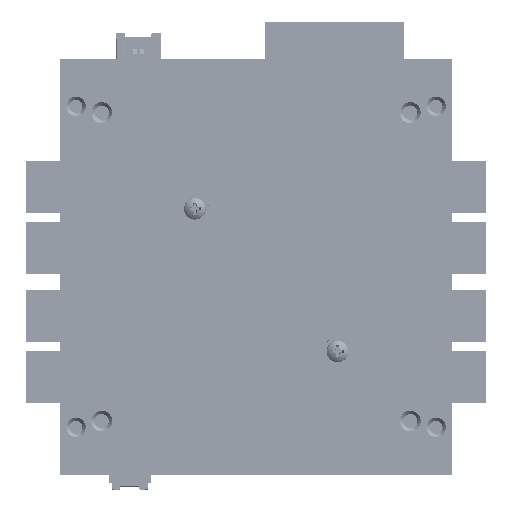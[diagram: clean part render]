
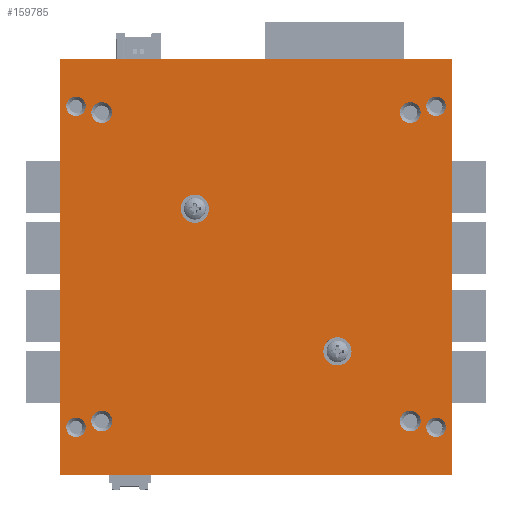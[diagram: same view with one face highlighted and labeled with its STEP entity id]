
A CAD part, top view. The second image highlights one B-rep face of the part: STEP entity #159785.
In plain terms, the highlighted planar face has unit normal (0, 0, 1).
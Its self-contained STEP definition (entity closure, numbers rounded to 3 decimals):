
#157979=DIRECTION('',(0.,-1.,0.));
#157980=VECTOR('',#157979,95.885);
#157981=CARTESIAN_POINT('',(90.17,95.885,14.941));
#157982=LINE('',#157981,#157980);
#157991=DIRECTION('',(-1.,0.,0.));
#157992=VECTOR('',#157991,90.17);
#157993=CARTESIAN_POINT('',(90.17,0.,14.941));
#157994=LINE('',#157993,#157992);
#157999=DIRECTION('',(0.,1.,0.));
#158000=VECTOR('',#157999,95.885);
#158001=CARTESIAN_POINT('',(0.,0.,14.941));
#158002=LINE('',#158001,#158000);
#158003=DIRECTION('',(1.,0.,0.));
#158004=VECTOR('',#158003,90.17);
#158005=CARTESIAN_POINT('',(0.,95.885,14.941));
#158006=LINE('',#158005,#158004);
#158011=CARTESIAN_POINT('',(86.59,10.95,14.941));
#158012=DIRECTION('',(0.,0.,-1.));
#158013=DIRECTION('',(1.,0.,0.));
#158014=AXIS2_PLACEMENT_3D('',#158011,#158012,#158013);
#158016=CARTESIAN_POINT('',(86.59,10.95,14.941));
#158017=DIRECTION('',(0.,0.,-1.));
#158018=DIRECTION('',(-1.,0.,0.));
#158019=AXIS2_PLACEMENT_3D('',#158016,#158017,#158018);
#158021=CARTESIAN_POINT('',(80.645,12.38,14.941));
#158022=DIRECTION('',(0.,0.,-1.));
#158023=DIRECTION('',(1.,0.,0.));
#158024=AXIS2_PLACEMENT_3D('',#158021,#158022,#158023);
#158026=CARTESIAN_POINT('',(80.645,12.38,14.941));
#158027=DIRECTION('',(0.,0.,-1.));
#158028=DIRECTION('',(-1.,0.,0.));
#158029=AXIS2_PLACEMENT_3D('',#158026,#158027,#158028);
#158031=CARTESIAN_POINT('',(86.59,84.95,14.941));
#158032=DIRECTION('',(0.,0.,-1.));
#158033=DIRECTION('',(1.,0.,0.));
#158034=AXIS2_PLACEMENT_3D('',#158031,#158032,#158033);
#158036=CARTESIAN_POINT('',(86.59,84.95,14.941));
#158037=DIRECTION('',(0.,0.,-1.));
#158038=DIRECTION('',(-1.,0.,0.));
#158039=AXIS2_PLACEMENT_3D('',#158036,#158037,#158038);
#158041=CARTESIAN_POINT('',(80.645,83.5,14.941));
#158042=DIRECTION('',(0.,0.,-1.));
#158043=DIRECTION('',(1.,0.,0.));
#158044=AXIS2_PLACEMENT_3D('',#158041,#158042,#158043);
#158046=CARTESIAN_POINT('',(80.645,83.5,14.941));
#158047=DIRECTION('',(0.,0.,-1.));
#158048=DIRECTION('',(-1.,0.,0.));
#158049=AXIS2_PLACEMENT_3D('',#158046,#158047,#158048);
#158051=CARTESIAN_POINT('',(9.525,83.5,14.941));
#158052=DIRECTION('',(0.,0.,-1.));
#158053=DIRECTION('',(1.,0.,0.));
#158054=AXIS2_PLACEMENT_3D('',#158051,#158052,#158053);
#158056=CARTESIAN_POINT('',(9.525,83.5,14.941));
#158057=DIRECTION('',(0.,0.,-1.));
#158058=DIRECTION('',(-1.,0.,0.));
#158059=AXIS2_PLACEMENT_3D('',#158056,#158057,#158058);
#158061=CARTESIAN_POINT('',(3.59,84.95,14.941));
#158062=DIRECTION('',(0.,0.,-1.));
#158063=DIRECTION('',(1.,0.,0.));
#158064=AXIS2_PLACEMENT_3D('',#158061,#158062,#158063);
#158066=CARTESIAN_POINT('',(3.59,84.95,14.941));
#158067=DIRECTION('',(0.,0.,-1.));
#158068=DIRECTION('',(-1.,0.,0.));
#158069=AXIS2_PLACEMENT_3D('',#158066,#158067,#158068);
#158071=CARTESIAN_POINT('',(9.525,12.38,14.941));
#158072=DIRECTION('',(0.,0.,-1.));
#158073=DIRECTION('',(1.,0.,0.));
#158074=AXIS2_PLACEMENT_3D('',#158071,#158072,#158073);
#158076=CARTESIAN_POINT('',(9.525,12.38,14.941));
#158077=DIRECTION('',(0.,0.,-1.));
#158078=DIRECTION('',(-1.,0.,0.));
#158079=AXIS2_PLACEMENT_3D('',#158076,#158077,#158078);
#158081=CARTESIAN_POINT('',(3.59,10.95,14.941));
#158082=DIRECTION('',(0.,0.,-1.));
#158083=DIRECTION('',(1.,0.,0.));
#158084=AXIS2_PLACEMENT_3D('',#158081,#158082,#158083);
#158086=CARTESIAN_POINT('',(3.59,10.95,14.941));
#158087=DIRECTION('',(0.,0.,-1.));
#158088=DIRECTION('',(-1.,0.,0.));
#158089=AXIS2_PLACEMENT_3D('',#158086,#158087,#158088);
#158091=CARTESIAN_POINT('',(63.865,28.461,14.941));
#158092=DIRECTION('',(0.,0.,-1.));
#158093=DIRECTION('',(1.,0.,0.));
#158094=AXIS2_PLACEMENT_3D('',#158091,#158092,#158093);
#158096=CARTESIAN_POINT('',(63.865,28.461,14.941));
#158097=DIRECTION('',(0.,0.,-1.));
#158098=DIRECTION('',(-1.,0.,0.));
#158099=AXIS2_PLACEMENT_3D('',#158096,#158097,#158098);
#158101=CARTESIAN_POINT('',(30.985,61.341,14.941));
#158102=DIRECTION('',(0.,0.,-1.));
#158103=DIRECTION('',(1.,0.,0.));
#158104=AXIS2_PLACEMENT_3D('',#158101,#158102,#158103);
#158106=CARTESIAN_POINT('',(30.985,61.341,14.941));
#158107=DIRECTION('',(0.,0.,-1.));
#158108=DIRECTION('',(-1.,0.,0.));
#158109=AXIS2_PLACEMENT_3D('',#158106,#158107,#158108);
#159075=CARTESIAN_POINT('',(83.045,12.38,14.941));
#159077=VERTEX_POINT('',#159075);
#159079=CARTESIAN_POINT('',(78.245,12.38,14.941));
#159080=VERTEX_POINT('',#159079);
#159083=CARTESIAN_POINT('',(88.84,10.95,14.941));
#159085=VERTEX_POINT('',#159083);
#159087=CARTESIAN_POINT('',(84.34,10.95,14.941));
#159088=VERTEX_POINT('',#159087);
#159103=CARTESIAN_POINT('',(88.84,84.95,14.941));
#159104=CARTESIAN_POINT('',(84.34,84.95,14.941));
#159105=VERTEX_POINT('',#159103);
#159106=VERTEX_POINT('',#159104);
#159107=CARTESIAN_POINT('',(83.045,83.5,14.941));
#159108=CARTESIAN_POINT('',(78.245,83.5,14.941));
#159109=VERTEX_POINT('',#159107);
#159110=VERTEX_POINT('',#159108);
#159427=CARTESIAN_POINT('',(0.,0.,14.941));
#159428=VERTEX_POINT('',#159427);
#159429=CARTESIAN_POINT('',(90.17,0.,14.941));
#159430=VERTEX_POINT('',#159429);
#159431=CARTESIAN_POINT('',(90.17,95.885,14.941));
#159432=VERTEX_POINT('',#159431);
#159433=CARTESIAN_POINT('',(0.,95.885,14.941));
#159434=VERTEX_POINT('',#159433);
#159435=CARTESIAN_POINT('',(27.735,61.341,14.941));
#159436=CARTESIAN_POINT('',(34.235,61.341,14.941));
#159437=VERTEX_POINT('',#159435);
#159438=VERTEX_POINT('',#159436);
#159439=CARTESIAN_POINT('',(60.615,28.461,14.941));
#159440=CARTESIAN_POINT('',(67.115,28.461,14.941));
#159441=VERTEX_POINT('',#159439);
#159442=VERTEX_POINT('',#159440);
#159443=CARTESIAN_POINT('',(1.34,10.95,14.941));
#159444=CARTESIAN_POINT('',(5.84,10.95,14.941));
#159445=VERTEX_POINT('',#159443);
#159446=VERTEX_POINT('',#159444);
#159447=CARTESIAN_POINT('',(7.125,12.38,14.941));
#159448=CARTESIAN_POINT('',(11.925,12.38,14.941));
#159449=VERTEX_POINT('',#159447);
#159450=VERTEX_POINT('',#159448);
#159451=CARTESIAN_POINT('',(1.34,84.95,14.941));
#159452=CARTESIAN_POINT('',(5.84,84.95,14.941));
#159453=VERTEX_POINT('',#159451);
#159454=VERTEX_POINT('',#159452);
#159455=CARTESIAN_POINT('',(7.125,83.5,14.941));
#159456=CARTESIAN_POINT('',(11.925,83.5,14.941));
#159457=VERTEX_POINT('',#159455);
#159458=VERTEX_POINT('',#159456);
#159714=CARTESIAN_POINT('',(0.,0.,14.941));
#159715=DIRECTION('',(0.,0.,1.));
#159716=DIRECTION('',(1.,0.,0.));
#159717=AXIS2_PLACEMENT_3D('',#159714,#159715,#159716);
#159718=PLANE('',#159717);
#159719=ORIENTED_EDGE('',*,*,#159707,.T.);
#159720=ORIENTED_EDGE('',*,*,#159665,.T.);
#159721=ORIENTED_EDGE('',*,*,#159680,.T.);
#159722=ORIENTED_EDGE('',*,*,#159694,.T.);
#159723=EDGE_LOOP('',(#159719,#159720,#159721,#159722));
#159724=FACE_OUTER_BOUND('',#159723,.F.);
#159726=ORIENTED_EDGE('',*,*,#159725,.F.);
#159728=ORIENTED_EDGE('',*,*,#159727,.F.);
#159729=EDGE_LOOP('',(#159726,#159728));
#159730=FACE_BOUND('',#159729,.F.);
#159732=ORIENTED_EDGE('',*,*,#159731,.F.);
#159734=ORIENTED_EDGE('',*,*,#159733,.F.);
#159735=EDGE_LOOP('',(#159732,#159734));
#159736=FACE_BOUND('',#159735,.F.);
#159738=ORIENTED_EDGE('',*,*,#159737,.F.);
#159740=ORIENTED_EDGE('',*,*,#159739,.F.);
#159741=EDGE_LOOP('',(#159738,#159740));
#159742=FACE_BOUND('',#159741,.F.);
#159744=ORIENTED_EDGE('',*,*,#159743,.F.);
#159746=ORIENTED_EDGE('',*,*,#159745,.F.);
#159747=EDGE_LOOP('',(#159744,#159746));
#159748=FACE_BOUND('',#159747,.F.);
#159750=ORIENTED_EDGE('',*,*,#159749,.F.);
#159752=ORIENTED_EDGE('',*,*,#159751,.F.);
#159753=EDGE_LOOP('',(#159750,#159752));
#159754=FACE_BOUND('',#159753,.F.);
#159756=ORIENTED_EDGE('',*,*,#159755,.F.);
#159758=ORIENTED_EDGE('',*,*,#159757,.F.);
#159759=EDGE_LOOP('',(#159756,#159758));
#159760=FACE_BOUND('',#159759,.F.);
#159762=ORIENTED_EDGE('',*,*,#159761,.F.);
#159764=ORIENTED_EDGE('',*,*,#159763,.F.);
#159765=EDGE_LOOP('',(#159762,#159764));
#159766=FACE_BOUND('',#159765,.F.);
#159768=ORIENTED_EDGE('',*,*,#159767,.F.);
#159770=ORIENTED_EDGE('',*,*,#159769,.F.);
#159771=EDGE_LOOP('',(#159768,#159770));
#159772=FACE_BOUND('',#159771,.F.);
#159774=ORIENTED_EDGE('',*,*,#159773,.F.);
#159776=ORIENTED_EDGE('',*,*,#159775,.F.);
#159777=EDGE_LOOP('',(#159774,#159776));
#159778=FACE_BOUND('',#159777,.F.);
#159780=ORIENTED_EDGE('',*,*,#159779,.F.);
#159782=ORIENTED_EDGE('',*,*,#159781,.F.);
#159783=EDGE_LOOP('',(#159780,#159782));
#159784=FACE_BOUND('',#159783,.F.);
#159785=ADVANCED_FACE('',(#159724,#159730,#159736,#159742,#159748,#159754,
#159760,#159766,#159772,#159778,#159784),#159718,.T.);
#158015=CIRCLE('',#158014,2.25);
#158020=CIRCLE('',#158019,2.25);
#158025=CIRCLE('',#158024,2.4);
#158030=CIRCLE('',#158029,2.4);
#158035=CIRCLE('',#158034,2.25);
#158040=CIRCLE('',#158039,2.25);
#158045=CIRCLE('',#158044,2.4);
#158050=CIRCLE('',#158049,2.4);
#158055=CIRCLE('',#158054,2.4);
#158060=CIRCLE('',#158059,2.4);
#158065=CIRCLE('',#158064,2.25);
#158070=CIRCLE('',#158069,2.25);
#158075=CIRCLE('',#158074,2.4);
#158080=CIRCLE('',#158079,2.4);
#158085=CIRCLE('',#158084,2.25);
#158090=CIRCLE('',#158089,2.25);
#158095=CIRCLE('',#158094,3.25);
#158100=CIRCLE('',#158099,3.25);
#158105=CIRCLE('',#158104,3.25);
#158110=CIRCLE('',#158109,3.25);
#159665=EDGE_CURVE('',#159432,#159430,#157982,.T.);
#159680=EDGE_CURVE('',#159430,#159428,#157994,.T.);
#159694=EDGE_CURVE('',#159428,#159434,#158002,.T.);
#159707=EDGE_CURVE('',#159434,#159432,#158006,.T.);
#159725=EDGE_CURVE('',#159085,#159088,#158015,.T.);
#159727=EDGE_CURVE('',#159088,#159085,#158020,.T.);
#159731=EDGE_CURVE('',#159077,#159080,#158025,.T.);
#159733=EDGE_CURVE('',#159080,#159077,#158030,.T.);
#159737=EDGE_CURVE('',#159105,#159106,#158035,.T.);
#159739=EDGE_CURVE('',#159106,#159105,#158040,.T.);
#159743=EDGE_CURVE('',#159109,#159110,#158045,.T.);
#159745=EDGE_CURVE('',#159110,#159109,#158050,.T.);
#159749=EDGE_CURVE('',#159458,#159457,#158055,.T.);
#159751=EDGE_CURVE('',#159457,#159458,#158060,.T.);
#159755=EDGE_CURVE('',#159454,#159453,#158065,.T.);
#159757=EDGE_CURVE('',#159453,#159454,#158070,.T.);
#159761=EDGE_CURVE('',#159450,#159449,#158075,.T.);
#159763=EDGE_CURVE('',#159449,#159450,#158080,.T.);
#159767=EDGE_CURVE('',#159446,#159445,#158085,.T.);
#159769=EDGE_CURVE('',#159445,#159446,#158090,.T.);
#159773=EDGE_CURVE('',#159442,#159441,#158095,.T.);
#159775=EDGE_CURVE('',#159441,#159442,#158100,.T.);
#159779=EDGE_CURVE('',#159438,#159437,#158105,.T.);
#159781=EDGE_CURVE('',#159437,#159438,#158110,.T.);
